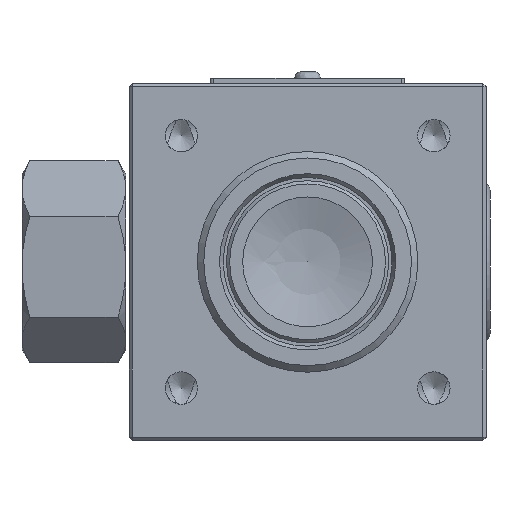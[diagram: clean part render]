
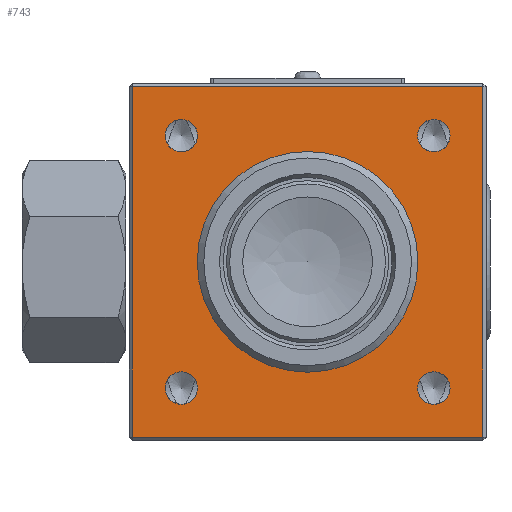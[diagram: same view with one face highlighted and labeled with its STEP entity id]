
A CAD part, left-side view. The second image highlights one B-rep face of the part: STEP entity #743.
In plain terms, the highlighted planar face has unit normal (-1, 0, 0).
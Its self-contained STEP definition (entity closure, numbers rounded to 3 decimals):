
#743=ADVANCED_FACE('',(#1207,#1208,#1209,#1210,#1211,#1212),#871,.F.);
#871=PLANE('',#2985);
#976=LINE('',#6707,#1086);
#977=LINE('',#6710,#1087);
#978=LINE('',#6712,#1088);
#979=LINE('',#6714,#1089);
#1086=VECTOR('',#3488,1.);
#1087=VECTOR('',#3489,1.);
#1088=VECTOR('',#3490,1.);
#1089=VECTOR('',#3491,1.);
#1207=FACE_BOUND('',#1446,.T.);
#1208=FACE_BOUND('',#1447,.T.);
#1209=FACE_BOUND('',#1448,.T.);
#1210=FACE_BOUND('',#1449,.T.);
#1211=FACE_BOUND('',#1450,.T.);
#1212=FACE_BOUND('',#1451,.T.);
#1446=EDGE_LOOP('',(#1942,#1943,#1944,#1945));
#1447=EDGE_LOOP('',(#1946));
#1448=EDGE_LOOP('',(#1947));
#1449=EDGE_LOOP('',(#1948));
#1450=EDGE_LOOP('',(#1949));
#1451=EDGE_LOOP('',(#1950));
#1942=ORIENTED_EDGE('',*,*,#2592,.T.);
#1943=ORIENTED_EDGE('',*,*,#2593,.T.);
#1944=ORIENTED_EDGE('',*,*,#2594,.T.);
#1945=ORIENTED_EDGE('',*,*,#2595,.T.);
#1946=ORIENTED_EDGE('',*,*,#2596,.T.);
#1947=ORIENTED_EDGE('',*,*,#2597,.T.);
#1948=ORIENTED_EDGE('',*,*,#2598,.T.);
#1949=ORIENTED_EDGE('',*,*,#2599,.T.);
#1950=ORIENTED_EDGE('',*,*,#2600,.F.);
#2320=VERTEX_POINT('',#6708);
#2321=VERTEX_POINT('',#6709);
#2322=VERTEX_POINT('',#6711);
#2323=VERTEX_POINT('',#6713);
#2324=VERTEX_POINT('',#6716);
#2325=VERTEX_POINT('',#6718);
#2326=VERTEX_POINT('',#6720);
#2327=VERTEX_POINT('',#6722);
#2328=VERTEX_POINT('',#6724);
#2592=EDGE_CURVE('',#2320,#2321,#976,.T.);
#2593=EDGE_CURVE('',#2321,#2322,#977,.T.);
#2594=EDGE_CURVE('',#2322,#2323,#978,.T.);
#2595=EDGE_CURVE('',#2323,#2320,#979,.T.);
#2596=EDGE_CURVE('',#2324,#2324,#2775,.T.);
#2597=EDGE_CURVE('',#2325,#2325,#2776,.T.);
#2598=EDGE_CURVE('',#2326,#2326,#2777,.T.);
#2599=EDGE_CURVE('',#2327,#2327,#2778,.T.);
#2600=EDGE_CURVE('',#2328,#2328,#2779,.T.);
#2775=CIRCLE('',#2980,2.5);
#2776=CIRCLE('',#2981,2.5);
#2777=CIRCLE('',#2982,2.5);
#2778=CIRCLE('',#2983,2.5);
#2779=CIRCLE('',#2984,17.);
#2980=AXIS2_PLACEMENT_3D('',#6715,#3492,#3493);
#2981=AXIS2_PLACEMENT_3D('',#6717,#3494,#3495);
#2982=AXIS2_PLACEMENT_3D('',#6719,#3496,#3497);
#2983=AXIS2_PLACEMENT_3D('',#6721,#3498,#3499);
#2984=AXIS2_PLACEMENT_3D('',#6723,#3500,#3501);
#2985=AXIS2_PLACEMENT_3D('',#6725,#3502,#3503);
#3488=DIRECTION('',(0.,0.,-1.));
#3489=DIRECTION('',(0.,-1.,0.));
#3490=DIRECTION('',(0.,0.,1.));
#3491=DIRECTION('',(0.,1.,0.));
#3492=DIRECTION('',(1.,0.,0.));
#3493=DIRECTION('',(0.,0.,-1.));
#3494=DIRECTION('',(1.,0.,0.));
#3495=DIRECTION('',(0.,0.,-1.));
#3496=DIRECTION('',(1.,0.,0.));
#3497=DIRECTION('',(0.,0.,-1.));
#3498=DIRECTION('',(1.,0.,0.));
#3499=DIRECTION('',(0.,0.,-1.));
#3500=DIRECTION('',(-1.,0.,0.));
#3501=DIRECTION('',(0.,0.,1.));
#3502=DIRECTION('',(1.,0.,0.));
#3503=DIRECTION('',(0.,0.,1.));
#6707=CARTESIAN_POINT('',(126.545,169.066,-17.));
#6708=CARTESIAN_POINT('',(126.545,169.066,27.));
#6709=CARTESIAN_POINT('',(126.545,169.066,-27.));
#6710=CARTESIAN_POINT('',(126.545,169.566,-27.));
#6711=CARTESIAN_POINT('',(126.545,115.066,-27.));
#6712=CARTESIAN_POINT('',(126.545,115.066,27.5));
#6713=CARTESIAN_POINT('',(126.545,115.066,27.));
#6714=CARTESIAN_POINT('',(126.545,169.566,27.));
#6715=CARTESIAN_POINT('',(126.545,122.62,19.445));
#6716=CARTESIAN_POINT('',(126.545,122.62,16.945));
#6717=CARTESIAN_POINT('',(126.545,122.62,-19.445));
#6718=CARTESIAN_POINT('',(126.545,122.62,-21.945));
#6719=CARTESIAN_POINT('',(126.545,161.511,19.445));
#6720=CARTESIAN_POINT('',(126.545,161.511,16.945));
#6721=CARTESIAN_POINT('',(126.545,161.511,-19.445));
#6722=CARTESIAN_POINT('',(126.545,161.511,-21.945));
#6723=CARTESIAN_POINT('',(126.545,142.066,0.));
#6724=CARTESIAN_POINT('',(126.545,142.066,17.));
#6725=CARTESIAN_POINT('',(126.545,169.566,-17.));
